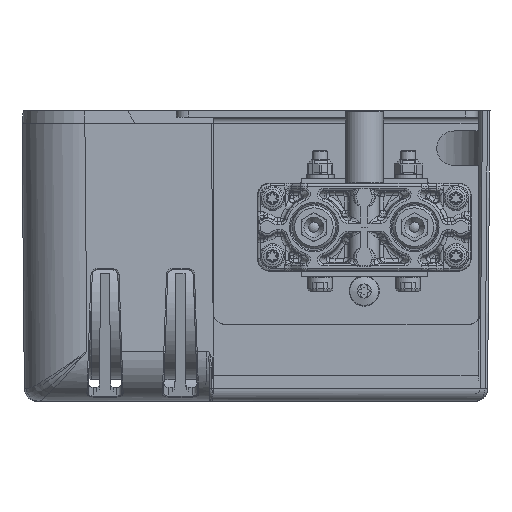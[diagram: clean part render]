
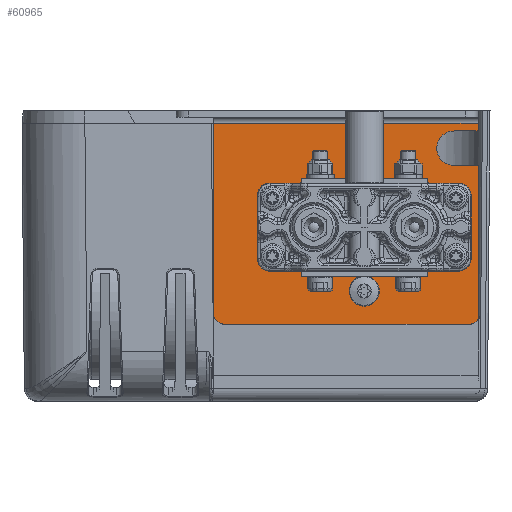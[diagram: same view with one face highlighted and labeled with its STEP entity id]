
A CAD part, left-side view. The second image highlights one B-rep face of the part: STEP entity #60965.
In plain terms, the highlighted planar face has unit normal (-1, 0, 0) as drawn and (0, 0, 1) by its records, which use the part's own axes.
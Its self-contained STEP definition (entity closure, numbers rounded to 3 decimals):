
#6271=LINE('',#117773,#8791);
#6272=LINE('',#117786,#8792);
#6273=LINE('',#117787,#8793);
#6274=LINE('',#117789,#8794);
#6275=LINE('',#117791,#8795);
#6276=LINE('',#117793,#8796);
#6277=LINE('',#117795,#8797);
#8791=VECTOR('',#72630,1000.);
#8792=VECTOR('',#72643,1000.);
#8793=VECTOR('',#72644,1000.);
#8794=VECTOR('',#72645,1000.);
#8795=VECTOR('',#72646,1000.);
#8796=VECTOR('',#72647,1000.);
#8797=VECTOR('',#72648,1000.);
#17179=ORIENTED_EDGE('',*,*,#30930,.F.);
#17180=ORIENTED_EDGE('',*,*,#30931,.F.);
#17181=ORIENTED_EDGE('',*,*,#30932,.F.);
#17182=ORIENTED_EDGE('',*,*,#30933,.F.);
#17183=ORIENTED_EDGE('',*,*,#30934,.T.);
#17184=ORIENTED_EDGE('',*,*,#30935,.T.);
#17185=ORIENTED_EDGE('',*,*,#30929,.F.);
#17186=ORIENTED_EDGE('',*,*,#30936,.T.);
#17187=ORIENTED_EDGE('',*,*,#30937,.F.);
#17188=ORIENTED_EDGE('',*,*,#30938,.T.);
#17189=ORIENTED_EDGE('',*,*,#30939,.F.);
#17190=ORIENTED_EDGE('',*,*,#30940,.T.);
#30929=EDGE_CURVE('',#38114,#38107,#6271,.T.);
#30930=EDGE_CURVE('',#38115,#38115,#42618,.T.);
#30931=EDGE_CURVE('',#38116,#38116,#42619,.T.);
#30932=EDGE_CURVE('',#38117,#38117,#42620,.T.);
#30933=EDGE_CURVE('',#38118,#38118,#42621,.T.);
#30934=EDGE_CURVE('',#38119,#38120,#42622,.T.);
#30935=EDGE_CURVE('',#38120,#38107,#6272,.T.);
#30936=EDGE_CURVE('',#38114,#38121,#6273,.T.);
#30937=EDGE_CURVE('',#38122,#38121,#6274,.T.);
#30938=EDGE_CURVE('',#38122,#38123,#6275,.T.);
#30939=EDGE_CURVE('',#38124,#38123,#6276,.T.);
#30940=EDGE_CURVE('',#38124,#38119,#6277,.T.);
#38107=VERTEX_POINT('',#117759);
#38114=VERTEX_POINT('',#117772);
#38115=VERTEX_POINT('',#117776);
#38116=VERTEX_POINT('',#117778);
#38117=VERTEX_POINT('',#117780);
#38118=VERTEX_POINT('',#117782);
#38119=VERTEX_POINT('',#117784);
#38120=VERTEX_POINT('',#117785);
#38121=VERTEX_POINT('',#117788);
#38122=VERTEX_POINT('',#117790);
#38123=VERTEX_POINT('',#117792);
#38124=VERTEX_POINT('',#117794);
#42618=CIRCLE('',#65107,12.5);
#42619=CIRCLE('',#65108,3.4);
#42620=CIRCLE('',#65109,3.4);
#42621=CIRCLE('',#65110,3.4);
#42622=CIRCLE('',#65111,6.9);
#45298=EDGE_LOOP('',(#17179));
#45299=EDGE_LOOP('',(#17180));
#45300=EDGE_LOOP('',(#17181));
#45301=EDGE_LOOP('',(#17182));
#45302=EDGE_LOOP('',(#17183,#17184,#17185,#17186,#17187,#17188,#17189,#17190));
#49343=FACE_BOUND('',#45298,.T.);
#49344=FACE_BOUND('',#45299,.T.);
#49345=FACE_BOUND('',#45300,.T.);
#49346=FACE_BOUND('',#45301,.T.);
#49347=FACE_BOUND('',#45302,.T.);
#52278=PLANE('',#65106);
#60965=ADVANCED_FACE('',(#49343,#49344,#49345,#49346,#49347),#52278,.F.);
#65106=AXIS2_PLACEMENT_3D('',#117774,#72631,#72632);
#65107=AXIS2_PLACEMENT_3D('',#117775,#72633,#72634);
#65108=AXIS2_PLACEMENT_3D('',#117777,#72635,#72636);
#65109=AXIS2_PLACEMENT_3D('',#117779,#72637,#72638);
#65110=AXIS2_PLACEMENT_3D('',#117781,#72639,#72640);
#65111=AXIS2_PLACEMENT_3D('',#117783,#72641,#72642);
#72630=DIRECTION('',(0.,-1.,0.));
#72631=DIRECTION('',(0.,0.,-1.));
#72632=DIRECTION('',(-1.,0.,0.));
#72633=DIRECTION('',(0.,0.,1.));
#72634=DIRECTION('',(1.,0.,0.));
#72635=DIRECTION('',(0.,0.,1.));
#72636=DIRECTION('',(1.,0.,0.));
#72637=DIRECTION('',(0.,0.,1.));
#72638=DIRECTION('',(1.,0.,0.));
#72639=DIRECTION('',(0.,0.,1.));
#72640=DIRECTION('',(1.,0.,0.));
#72641=DIRECTION('',(0.,0.,-1.));
#72642=DIRECTION('',(-1.,0.,0.));
#72643=DIRECTION('',(1.,0.,0.));
#72644=DIRECTION('',(-1.,0.,0.));
#72645=DIRECTION('',(0.,1.,0.));
#72646=DIRECTION('',(1.,0.,0.));
#72647=DIRECTION('',(0.,-1.,0.));
#72648=DIRECTION('',(-1.,0.,0.));
#117759=CARTESIAN_POINT('',(102.,53.75,2.5));
#117772=CARTESIAN_POINT('',(102.,56.75,2.5));
#117773=CARTESIAN_POINT('',(102.,60.25,2.5));
#117774=CARTESIAN_POINT('',(102.,60.25,2.5));
#117775=CARTESIAN_POINT('',(56.75,15.5,2.5));
#117776=CARTESIAN_POINT('',(69.25,15.5,2.5));
#117777=CARTESIAN_POINT('',(34.753,28.2,2.5));
#117778=CARTESIAN_POINT('',(38.153,28.2,2.5));
#117779=CARTESIAN_POINT('',(78.747,28.2,2.5));
#117780=CARTESIAN_POINT('',(82.147,28.2,2.5));
#117781=CARTESIAN_POINT('',(56.75,-9.9,2.5));
#117782=CARTESIAN_POINT('',(60.15,-9.9,2.5));
#117783=CARTESIAN_POINT('',(92.5,46.85,2.5));
#117784=CARTESIAN_POINT('',(92.5,39.95,2.5));
#117785=CARTESIAN_POINT('',(92.5,53.75,2.5));
#117786=CARTESIAN_POINT('',(102.,53.75,2.5));
#117787=CARTESIAN_POINT('',(312.5,56.75,2.5));
#117788=CARTESIAN_POINT('',(-3.25,56.75,2.5));
#117789=CARTESIAN_POINT('',(-3.25,60.25,2.5));
#117790=CARTESIAN_POINT('',(-3.25,-43.3,2.5));
#117791=CARTESIAN_POINT('',(-75.74,-43.3,2.5));
#117792=CARTESIAN_POINT('',(102.,-43.3,2.5));
#117793=CARTESIAN_POINT('',(102.,60.25,2.5));
#117794=CARTESIAN_POINT('',(102.,39.95,2.5));
#117795=CARTESIAN_POINT('',(102.,39.95,2.5));
